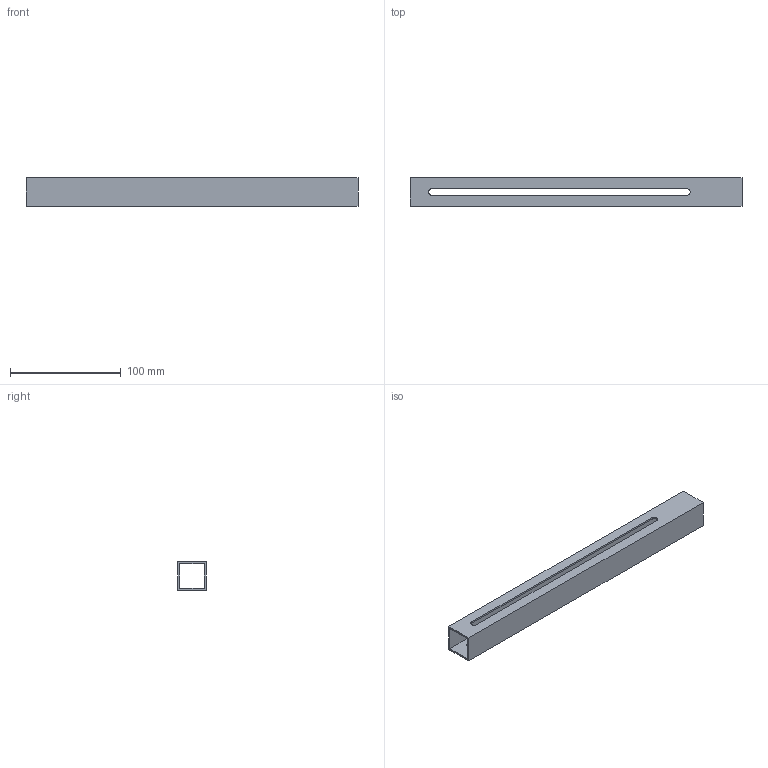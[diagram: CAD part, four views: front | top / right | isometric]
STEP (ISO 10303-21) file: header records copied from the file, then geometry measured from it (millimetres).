
FILE_DESCRIPTION(/* description */ ('(C) Elphel, Inc. 2012. Licensed under CERN OHL v.1.1 or later, see http://ohwr.org/cernohl'),/* implementation_level */ '2;1');
FILE_NAME(/* name */ '0353-25-214B',/* time_stamp */ '2012-06-08T13:06:17-06:00',/* author */ (''),/* organization */ ('Elphel, Inc'),/* preprocessor_version */ 'ST-DEVELOPER v12',/* originating_system */ 'VariCAD 2012-1.04; kernel version (20100102)',/* authorisation */ '');
FILE_SCHEMA (('AUTOMOTIVE_DESIGN'));
Length unit declared in the file: millimetre
Products named in the file (1): Part
Bounding box: 300 x 25.4 x 25.4 mm (x, y, z)
Volume: 38014.2 mm3; surface area: 49751.6 mm2
Topology: 1 solids, 1 shells, 18 faces, 48 edges, 32 vertices
Faces by surface type: plane 14, cylinder 4
Entity records: 599 total; most frequent: CARTESIAN_POINT 100, ORIENTED_EDGE 96, DIRECTION 96, EDGE_CURVE 48, LINE 40, VECTOR 40, VERTEX_POINT 32, AXIS2_PLACEMENT_3D 28
